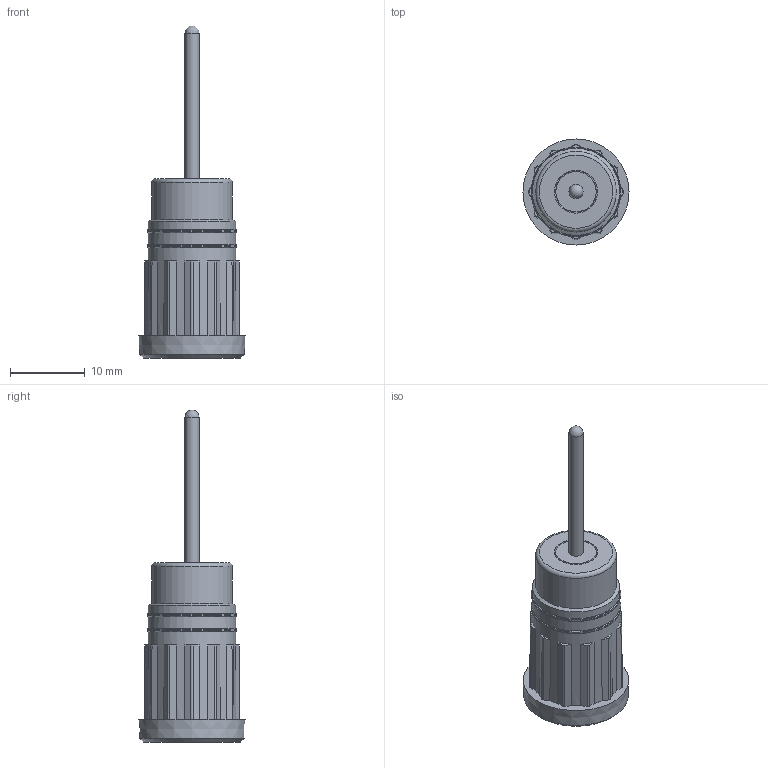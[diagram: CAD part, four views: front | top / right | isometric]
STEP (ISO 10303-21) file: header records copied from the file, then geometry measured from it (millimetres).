
FILE_DESCRIPTION (( 'STEP AP214' ), '1' );
FILE_NAME ('CT2913-4.STEP', '2017-10-11T17:56:16', ( '' ), ( '' ), 'SwSTEP 2.0', 'SolidWorks 2014', '' );
FILE_SCHEMA (( 'AUTOMOTIVE_DESIGN' ));
Length unit declared in the file: millimetre
Products named in the file (3): CT2913-4; 440-310_440-310-04; 440-3xx_440-307
Assembly tree (2 placements, depth 2):
  CT2913-4
    440-310_440-310-04
    440-3xx_440-307
Bounding box: 14.21 x 14.21 x 44.49 mm (x, y, z)
Volume: 1819 mm3; surface area: 3178.4 mm2
Topology: 2 solids, 2 shells, 237 faces, 573 edges, 365 vertices
Faces by surface type: plane 180, cone 30, bspline 12, torus 8, cylinder 6, sphere 1
Full cylindrical faces by diameter (mm): 1.9 x1, 4.1 x1, 5.4 x1, 10.8 x1, 12 x2
Entity records: 6860 total; most frequent: CARTESIAN_POINT 1420, DIRECTION 1092, ORIENTED_EDGE 1070, EDGE_CURVE 535, AXIS2_PLACEMENT_3D 387, VERTEX_POINT 355, VECTOR 318, LINE 318
